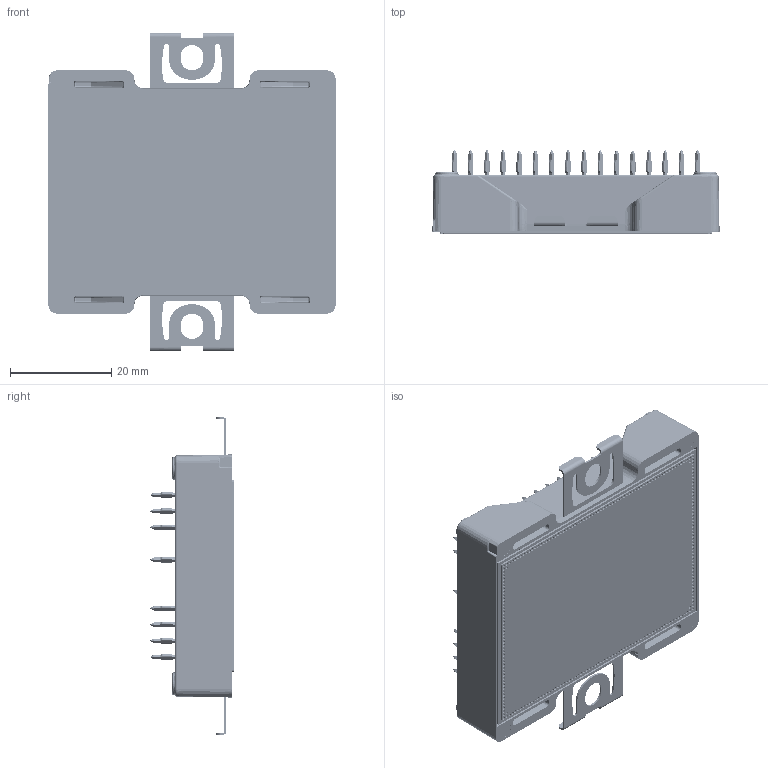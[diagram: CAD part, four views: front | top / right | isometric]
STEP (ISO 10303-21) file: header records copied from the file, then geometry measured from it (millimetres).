
FILE_DESCRIPTION (( 'STEP AP214' ), '1' );
FILE_NAME ('630018_CBxxxM12GM3_XC_PO0040700_-02_WolfPACK_6-Pack_20221102.STEP', '2022-11-15T06:04:21', ( '' ), ( '' ), 'SwSTEP 2.0', 'SolidWorks 2021', '' );
FILE_SCHEMA (( 'AUTOMOTIVE_DESIGN' ));
Length unit declared in the file: inch
Products named in the file (1): 630018_CBxxxM12GM3_XC_PO0040700_-02_WolfPACK_6-Pack_20221102
Bounding box: 56.7 x 16.4 x 62.8 mm (x, y, z)
Volume: 25875.3 mm3; surface area: 12546 mm2
Topology: 1 solids, 1 shells, 4839 faces, 10941 edges, 6783 vertices
Faces by surface type: cylinder 1500, plane 1290, cone 1050, torus 707, bspline 274, sphere 18
Entity records: 203073 total; most frequent: CARTESIAN_POINT 32964, DIRECTION 23285, ORIENTED_EDGE 21850, EDGE_CURVE 10925, AXIS2_PLACEMENT_3D 9587, VERTEX_POINT 6783, EDGE_LOOP 5542, CIRCLE 5021
